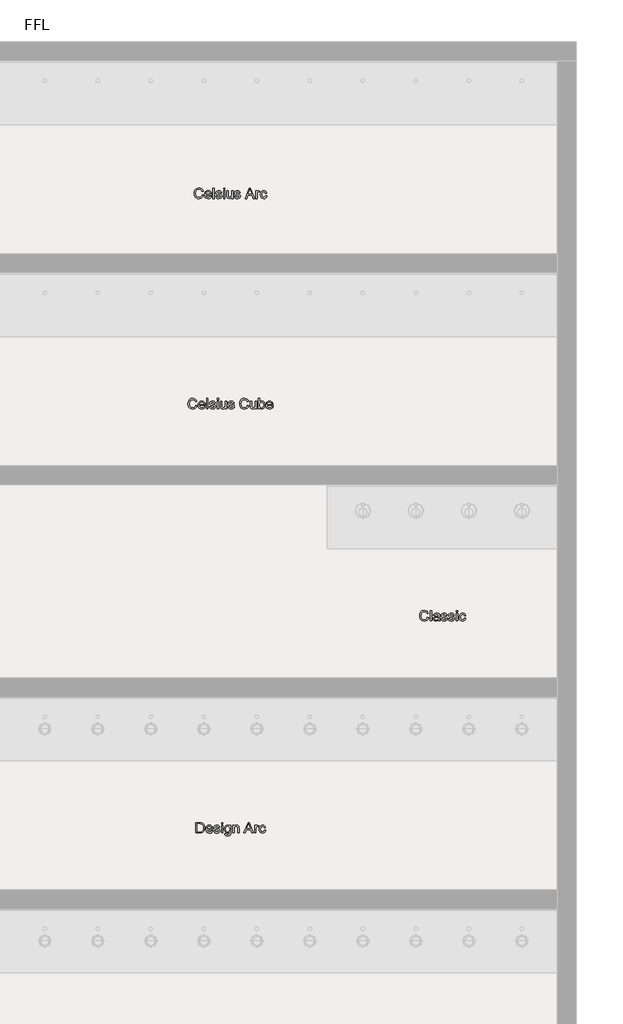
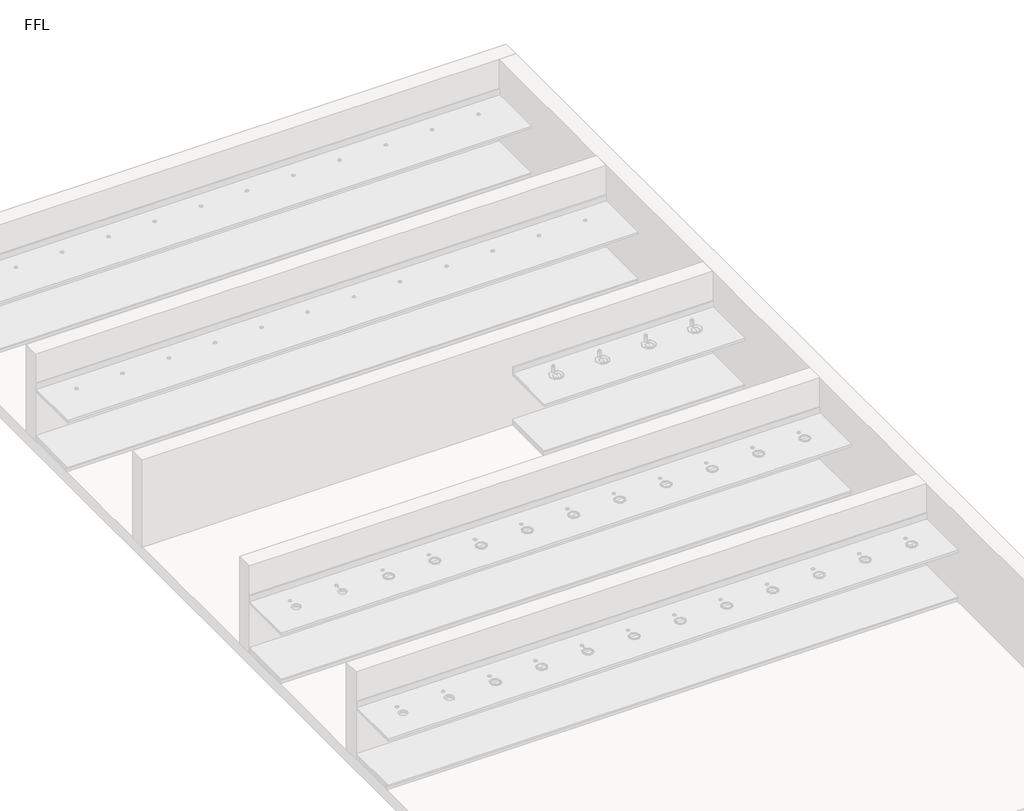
# One storey, part 6 of 6: 4 proxies.
"""IFC4 building model written with IfcOpenShell, lengths in millimetres."""

from ifc_helpers import new_model, si_unit, origin, origin_with_axes, place, context, project, spatial, polyline, outline, extrude, element, save

model = new_model("IFC4")

# Units and contexts
model_context = context("Model", 3, world=origin())
ifc_project = project(units=[si_unit("LENGTHUNIT", "METRE", prefix="MILLI")], contexts=[model_context])

# Site, building, storey
site = spatial("IfcSite", under=ifc_project)
building = spatial("IfcBuilding", under=site)
storey = spatial("IfcBuildingStorey", under=building, Name="FFL", Elevation=0.0)

# Proxies
placement = place(None, origin())
element("IfcBuildingElementProxy", 1, Name="150mm Arial", ObjectType="150mm Arial", at=placement, inside=storey, context=model_context, shape_type="SweptSolid", body=[
    extrude(outline(polyline([(-2745.1193659, 11953.6531174), (-2726.6578274, 11948.893502), (-2735.1764572, 11927.3805813), (-2748.5448467, 11911.6639347), (-2766.1049428, 11902.0500525), (-2787.1986928, 11898.845425), (-2808.6124548, 11901.2703049), (-2825.618164, 11908.5449443), (-2838.6530197, 11920.4169395), (-2848.1542217, 11936.6338866), (-2853.9550029, 11955.6993914), (-2855.8885967, 11976.1170597), (-2853.7025991, 11997.6525164), (-2847.1446063, 12016.2492712), (-2836.5571664, 12031.3168794), (-2822.2828274, 12042.2648962), (-2805.3537409, 12048.9310621), (-2786.8020582, 12051.1531174), (-2766.5601712, 12048.2775164), (-2749.8248947, 12039.6507135), (-2737.1190654, 12025.8045597), (-2728.9655197, 12007.2709058), (-2747.4270582, 12002.8718674), (-2753.8272986, 12016.3349082), (-2762.571289, 12025.5701847), (-2773.7672024, 12030.9112303), (-2787.523212, 12032.6915789), (-2803.3795822, 12030.7174202), (-2816.4054236, 12024.7949443), (-2826.2897385, 12015.5461462), (-2832.7215293, 12003.5930212), (-2837.4270582, 11976.1531174), (-2831.8561447, 11944.3502327), (-2824.7347505, 11932.4737303), (-2814.5123947, 11924.0317231), (-2802.2572866, 11918.9881534), (-2789.0376351, 11917.3069635), (-2773.6274789, 11919.596627), (-2760.7864332, 11926.4656174), (-2751.0914212, 11937.8418193), (-2745.1193659, 11953.6531174)])), origin_with_axes(), (0.0, 0.0, 1.0), 5.0),
    extrude(outline(polyline([(-2627.6434043, 11933.4608097), (-2609.5424428, 11931.1531174), (-2616.0643779, 11917.5142952), (-2626.4715293, 11907.3189827), (-2640.5295221, 11900.9638145), (-2658.0039813, 11898.845425), (-2679.6656399, 11902.5007736), (-2696.3333082, 11913.4668193), (-2706.961313, 11931.0314226), (-2710.5039813, 11954.4824443), (-2706.9252553, 11978.7222279), (-2696.1890774, 11996.8502327), (-2679.7467697, 12008.1543193), (-2659.0496543, 12011.9223481), (-2638.9970702, 12008.1633337), (-2622.9739332, 11996.8862904), (-2612.4676231, 11978.7943433), (-2608.9655197, 11954.5906174), (-2609.0736928, 11949.6146558), (-2692.0424428, 11949.6146558), (-2688.8468298, 11935.7955452), (-2681.4234524, 11925.6362904), (-2670.7098106, 11919.3892952), (-2657.6434043, 11917.3069635), (-2639.5424428, 11921.1651366), (-2627.6434043, 11933.4608097)]), holes=[polyline([(-2692.0424428, 11968.0761943), (-2627.4270582, 11968.0761943), (-2629.9240534, 11977.8298), (-2634.8188851, 11984.8069635), (-2645.5821063, 11991.2973481), (-2659.1217697, 11993.4608097), (-2671.5661808, 11991.7345476), (-2681.8561447, 11986.5557616), (-2689.0090894, 11978.4833457), (-2692.0424428, 11968.0761943)])]), origin_with_axes(), (0.0, 0.0, 1.0), 5.0),
    extrude(outline(polyline([(-2590.5039813, 11901.1531174), (-2590.5039813, 12048.845425), (-2572.0424428, 12048.845425), (-2572.0424428, 11901.1531174), (-2590.5039813, 11901.1531174)])), origin_with_axes(), (0.0, 0.0, 1.0), 5.0),
    extrude(outline(polyline([(-2551.273212, 11933.4608097), (-2532.8116736, 11935.768502), (-2529.9000149, 11927.8718674), (-2524.2660005, 11922.0665789), (-2504.6866736, 11917.3069635), (-2485.8645582, 11921.6699443), (-2479.7347505, 11931.9103289), (-2485.9006159, 11940.2035981), (-2504.9030197, 11945.4680212), (-2532.7035005, 11954.5004731), (-2544.836914, 11965.0473481), (-2548.9655197, 11979.939175), (-2545.648212, 11993.6951847), (-2536.5977313, 12004.206002), (-2524.8609524, 12009.6687424), (-2508.977539, 12011.9223481), (-2486.5135967, 12008.29855), (-2472.2347505, 11998.4908577), (-2465.8885967, 11981.9223481), (-2484.3501351, 11979.6146558), (-2491.2912409, 11989.8009539), (-2507.5352313, 11993.4608097), (-2525.2035005, 11989.9632135), (-2530.5039813, 11981.814175), (-2528.304462, 11976.4415789), (-2521.4174428, 11972.3670597), (-2505.5160005, 11968.4367712), (-2478.4186447, 11959.7468674), (-2465.8345101, 11949.9031174), (-2461.273212, 11933.8574443), (-2466.6277793, 11916.189175), (-2482.0785005, 11903.3706654), (-2504.9390774, 11898.845425), (-2523.5538611, 11901.0269154), (-2537.1385967, 11907.5713866), (-2546.2071063, 11918.4067231), (-2551.273212, 11933.4608097)])), origin_with_axes(), (0.0, 0.0, 1.0), 5.0),
    extrude(outline(polyline([(-2440.5039813, 11901.1531174), (-2440.5039813, 12009.6146558), (-2422.0424428, 12009.6146558), (-2422.0424428, 11901.1531174), (-2440.5039813, 11901.1531174)])), origin_with_axes(), (0.0, 0.0, 1.0), 5.0),
    extrude(outline(polyline([(-2440.5039813, 12030.3838866), (-2440.5039813, 12048.845425), (-2422.0424428, 12048.845425), (-2422.0424428, 12030.3838866), (-2440.5039813, 12030.3838866)])), origin_with_axes(), (0.0, 0.0, 1.0), 5.0),
    extrude(outline(polyline([(-2325.1193659, 11901.1531174), (-2325.1193659, 11919.7949443), (-2339.5785005, 11904.0828049), (-2358.4366736, 11898.845425), (-2375.7984524, 11902.5233097), (-2387.7696063, 11911.7540789), (-2393.2684043, 11925.3478289), (-2394.3501351, 11942.5112904), (-2394.3501351, 12009.6146558), (-2375.8885967, 12009.6146558), (-2375.8885967, 11951.2011943), (-2374.7708082, 11932.3790789), (-2367.4691255, 11921.3273962), (-2353.7131159, 11917.3069635), (-2338.2984524, 11921.4175404), (-2328.1121543, 11932.6134539), (-2325.1193659, 11953.1843674), (-2325.1193659, 12009.6146558), (-2306.6578274, 12009.6146558), (-2306.6578274, 11901.1531174), (-2325.1193659, 11901.1531174)])), origin_with_axes(), (0.0, 0.0, 1.0), 5.0),
    extrude(outline(polyline([(-2288.196289, 11933.4608097), (-2269.7347505, 11935.768502), (-2266.8230918, 11927.8718674), (-2261.1890774, 11922.0665789), (-2241.6097505, 11917.3069635), (-2222.7876351, 11921.6699443), (-2216.6578274, 11931.9103289), (-2222.8236928, 11940.2035981), (-2241.8260967, 11945.4680212), (-2269.6265774, 11954.5004731), (-2281.7599909, 11965.0473481), (-2285.8885967, 11979.939175), (-2282.571289, 11993.6951847), (-2273.5208082, 12004.206002), (-2261.7840293, 12009.6687424), (-2245.9006159, 12011.9223481), (-2223.4366736, 12008.29855), (-2209.1578274, 11998.4908577), (-2202.8116736, 11981.9223481), (-2221.273212, 11979.6146558), (-2228.2143178, 11989.8009539), (-2244.4583082, 11993.4608097), (-2262.1265774, 11989.9632135), (-2267.4270582, 11981.814175), (-2265.227539, 11976.4415789), (-2258.3405197, 11972.3670597), (-2242.4390774, 11968.4367712), (-2215.3417217, 11959.7468674), (-2202.757587, 11949.9031174), (-2198.196289, 11933.8574443), (-2203.5508563, 11916.189175), (-2219.0015774, 11903.3706654), (-2241.8621543, 11898.845425), (-2260.476938, 11901.0269154), (-2274.0616736, 11907.5713866), (-2283.1301832, 11918.4067231), (-2288.196289, 11933.4608097)])), origin_with_axes(), (0.0, 0.0, 1.0), 5.0),
    extrude(outline(polyline([(-2134.6265774, 11901.1531174), (-2075.6722505, 12048.845425), (-2059.9510967, 12048.845425), (-2000.9967697, 11901.1531174), (-2020.5039813, 11901.1531174), (-2037.415039, 11947.3069635), (-2098.2443659, 11947.3069635), (-2115.1193659, 11901.1531174), (-2134.6265774, 11901.1531174)]), holes=[polyline([(-2091.4655197, 11965.768502), (-2044.1578274, 11965.768502), (-2057.4631159, 12002.0785981), (-2067.8116736, 12030.3838866), (-2077.0063851, 12005.251675), (-2091.4655197, 11965.768502)])]), origin_with_axes(), (0.0, 0.0, 1.0), 5.0),
    extrude(outline(polyline([(-1983.5809043, 11901.1531174), (-1983.5809043, 12009.6146558), (-1967.4270582, 12009.6146558), (-1967.4270582, 11993.5689827), (-1955.960712, 12008.3526366), (-1944.4222505, 12011.9223481), (-1925.8885967, 12006.2252327), (-1932.054462, 11989.674752), (-1945.0352313, 11993.4608097), (-1955.4739332, 11989.8189827), (-1962.1265774, 11979.7228289), (-1965.1193659, 11958.1603289), (-1965.1193659, 11901.1531174), (-1983.5809043, 11901.1531174)])), origin_with_axes(), (0.0, 0.0, 1.0), 5.0),
    extrude(outline(polyline([(-1845.1193659, 11940.3838866), (-1826.6578274, 11938.0761943), (-1831.805063, 11921.6564226), (-1841.477539, 11909.2480693), (-1854.7647986, 11901.4460861), (-1870.7563851, 11898.845425), (-1890.3943058, 11902.4737303), (-1905.7503755, 11913.3586462), (-1915.6617337, 11931.0224082), (-1918.9655197, 11954.987252), (-1913.3224909, 11985.6543193), (-1906.2010967, 11997.1522159), (-1896.1229717, 12005.3598481), (-1884.0661808, 12010.2817231), (-1871.008789, 12011.9223481), (-1855.4093298, 12009.6687424), (-1842.9378755, 12002.907925), (-1833.9910606, 11992.0004731), (-1828.9655197, 11977.3069635), (-1847.4270582, 11974.9992712), (-1855.9907601, 11988.8273962), (-1870.8645582, 11993.4608097), (-1882.7951471, 11991.1801606), (-1892.2647986, 11984.3382135), (-1898.4441856, 11972.565377), (-1900.5039813, 11955.4920597), (-1898.4892577, 11938.1888746), (-1892.445087, 11926.3754731), (-1883.1467096, 11919.5740909), (-1871.3693659, 11917.3069635), (-1861.8095702, 11918.7222279), (-1853.9715293, 11922.9680212), (-1848.2699067, 11930.1525164), (-1845.1193659, 11940.3838866)])), origin_with_axes(), (0.0, 0.0, 1.0), 5.0),
])
element("IfcBuildingElementProxy", 2, Name="150mm Arial", ObjectType="150mm Arial", at=placement, inside=storey, context=model_context, shape_type="SweptSolid", body=[
    extrude(outline(polyline([(-2833.9655197, 8976.8685711), (-2815.5039813, 8972.1089557), (-2824.0226111, 8950.596035), (-2837.3910005, 8934.8793884), (-2854.9510967, 8925.2655062), (-2876.0448467, 8922.0608788), (-2897.4586087, 8924.4857586), (-2914.4643178, 8931.760398), (-2927.4991736, 8943.6323932), (-2937.0003755, 8959.8493403), (-2942.8011567, 8978.9148451), (-2944.7347505, 8999.3325134), (-2942.5487529, 9020.8679701), (-2935.9907601, 9039.4647249), (-2925.4033202, 9054.5323331), (-2911.1289813, 9065.4803499), (-2894.1998947, 9072.1465158), (-2875.648212, 9074.3685711), (-2855.406325, 9071.4929701), (-2838.6710486, 9062.8661672), (-2825.9652192, 9049.0200134), (-2817.8116736, 9030.4863595), (-2836.273212, 9026.0873211), (-2842.6734524, 9039.5503619), (-2851.4174428, 9048.7856384), (-2862.6133563, 9054.126684), (-2876.3693659, 9055.9070326), (-2892.2257361, 9053.932874), (-2905.2515774, 9048.010398), (-2915.1358923, 9038.7615999), (-2921.5676832, 9026.8084749), (-2926.273212, 8999.3685711), (-2920.7022986, 8967.5656865), (-2913.5809043, 8955.689184), (-2903.3585486, 8947.2471768), (-2891.1034404, 8942.2036071), (-2877.883789, 8940.5224172), (-2862.4736327, 8942.8120807), (-2849.632587, 8949.6810711), (-2839.937575, 8961.057273), (-2833.9655197, 8976.8685711)])), origin_with_axes(), (0.0, 0.0, 1.0), 5.0),
    extrude(outline(polyline([(-2716.4895582, 8956.6762634), (-2698.3885967, 8954.3685711), (-2704.9105317, 8940.729749), (-2715.3176832, 8930.5344365), (-2729.375676, 8924.1792682), (-2746.8501351, 8922.0608788), (-2768.5117938, 8925.7162273), (-2785.179462, 8936.682273), (-2795.8074668, 8954.2468764), (-2799.3501351, 8977.697898), (-2795.7714092, 9001.9376816), (-2785.0352313, 9020.0656865), (-2768.5929236, 9031.369773), (-2747.8958082, 9035.1378018), (-2727.8432241, 9031.3787874), (-2711.820087, 9020.1017441), (-2701.3137769, 9002.009797), (-2697.8116736, 8977.8060711), (-2697.9198467, 8972.8301095), (-2780.8885967, 8972.8301095), (-2777.6929837, 8959.010999), (-2770.2696063, 8948.8517441), (-2759.5559644, 8942.604749), (-2746.4895582, 8940.5224172), (-2728.3885967, 8944.3805903), (-2716.4895582, 8956.6762634)]), holes=[polyline([(-2780.8885967, 8991.291648), (-2716.273212, 8991.291648), (-2718.7702072, 9001.0452538), (-2723.665039, 9008.0224172), (-2734.4282601, 9014.5128018), (-2747.9679236, 9016.6762634), (-2760.4123346, 9014.9500014), (-2770.7022986, 9009.7712153), (-2777.8552433, 9001.6987994), (-2780.8885967, 8991.291648)])]), origin_with_axes(), (0.0, 0.0, 1.0), 5.0),
    extrude(outline(polyline([(-2679.3501351, 8924.3685711), (-2679.3501351, 9072.0608788), (-2660.8885967, 9072.0608788), (-2660.8885967, 8924.3685711), (-2679.3501351, 8924.3685711)])), origin_with_axes(), (0.0, 0.0, 1.0), 5.0),
    extrude(outline(polyline([(-2640.1193659, 8956.6762634), (-2621.6578274, 8958.9839557), (-2618.7461688, 8951.0873211), (-2613.1121543, 8945.2820326), (-2593.5328274, 8940.5224172), (-2574.710712, 8944.885398), (-2568.5809043, 8955.1257826), (-2574.7467697, 8963.4190518), (-2593.7491736, 8968.6834749), (-2621.5496543, 8977.7159268), (-2633.6830678, 8988.2628018), (-2637.8116736, 9003.1546288), (-2634.4943659, 9016.9106384), (-2625.4438851, 9027.4214557), (-2613.7071063, 9032.8841961), (-2597.8236928, 9035.1378018), (-2575.3597505, 9031.5140038), (-2561.0809043, 9021.7063115), (-2554.7347505, 9005.1378018), (-2573.196289, 9002.8301095), (-2580.1373947, 9013.0164076), (-2596.3813851, 9016.6762634), (-2614.0496543, 9013.1786672), (-2619.3501351, 9005.0296288), (-2617.1506159, 8999.6570326), (-2610.2635967, 8995.5825134), (-2594.3621543, 8991.6522249), (-2567.2647986, 8982.9623211), (-2554.680664, 8973.1185711), (-2550.1193659, 8957.072898), (-2555.4739332, 8939.4046288), (-2570.9246543, 8926.5861191), (-2593.7852313, 8922.0608788), (-2612.4000149, 8924.2423691), (-2625.9847505, 8930.7868403), (-2635.0532601, 8941.6221768), (-2640.1193659, 8956.6762634)])), origin_with_axes(), (0.0, 0.0, 1.0), 5.0),
    extrude(outline(polyline([(-2529.3501351, 8924.3685711), (-2529.3501351, 9032.8301095), (-2510.8885967, 9032.8301095), (-2510.8885967, 8924.3685711), (-2529.3501351, 8924.3685711)])), origin_with_axes(), (0.0, 0.0, 1.0), 5.0),
    extrude(outline(polyline([(-2529.3501351, 9053.5993403), (-2529.3501351, 9072.0608788), (-2510.8885967, 9072.0608788), (-2510.8885967, 9053.5993403), (-2529.3501351, 9053.5993403)])), origin_with_axes(), (0.0, 0.0, 1.0), 5.0),
    extrude(outline(polyline([(-2413.9655197, 8924.3685711), (-2413.9655197, 8943.010398), (-2428.4246543, 8927.2982586), (-2447.2828274, 8922.0608788), (-2464.6446063, 8925.7387634), (-2476.6157601, 8934.9695326), (-2482.1145582, 8948.5632826), (-2483.196289, 8965.7267441), (-2483.196289, 9032.8301095), (-2464.7347505, 9032.8301095), (-2464.7347505, 8974.416648), (-2463.616962, 8955.5945326), (-2456.3152793, 8944.5428499), (-2442.5592697, 8940.5224172), (-2427.1446063, 8944.6329941), (-2416.9583082, 8955.8289076), (-2413.9655197, 8976.3998211), (-2413.9655197, 9032.8301095), (-2395.5039813, 9032.8301095), (-2395.5039813, 8924.3685711), (-2413.9655197, 8924.3685711)])), origin_with_axes(), (0.0, 0.0, 1.0), 5.0),
    extrude(outline(polyline([(-2377.0424428, 8956.6762634), (-2358.5809043, 8958.9839557), (-2355.6692457, 8951.0873211), (-2350.0352313, 8945.2820326), (-2330.4559043, 8940.5224172), (-2311.633789, 8944.885398), (-2305.5039813, 8955.1257826), (-2311.6698467, 8963.4190518), (-2330.6722505, 8968.6834749), (-2358.4727313, 8977.7159268), (-2370.6061447, 8988.2628018), (-2374.7347505, 9003.1546288), (-2371.4174428, 9016.9106384), (-2362.366962, 9027.4214557), (-2350.6301832, 9032.8841961), (-2334.7467697, 9035.1378018), (-2312.2828274, 9031.5140038), (-2298.0039813, 9021.7063115), (-2291.6578274, 9005.1378018), (-2310.1193659, 9002.8301095), (-2317.0604717, 9013.0164076), (-2333.304462, 9016.6762634), (-2350.9727313, 9013.1786672), (-2356.273212, 9005.0296288), (-2354.0736928, 8999.6570326), (-2347.1866736, 8995.5825134), (-2331.2852313, 8991.6522249), (-2304.1878755, 8982.9623211), (-2291.6037409, 8973.1185711), (-2287.0424428, 8957.072898), (-2292.3970101, 8939.4046288), (-2307.8477313, 8926.5861191), (-2330.7083082, 8922.0608788), (-2349.3230918, 8924.2423691), (-2362.9078274, 8930.7868403), (-2371.976337, 8941.6221768), (-2377.0424428, 8956.6762634)])), origin_with_axes(), (0.0, 0.0, 1.0), 5.0),
    extrude(outline(polyline([(-2102.4270582, 8976.8685711), (-2083.9655197, 8972.1089557), (-2092.4841495, 8950.596035), (-2105.852539, 8934.8793884), (-2123.4126351, 8925.2655062), (-2144.5063851, 8922.0608788), (-2165.9201471, 8924.4857586), (-2182.9258563, 8931.760398), (-2195.960712, 8943.6323932), (-2205.461914, 8959.8493403), (-2211.2626952, 8978.9148451), (-2213.196289, 8999.3325134), (-2211.0102914, 9020.8679701), (-2204.4522986, 9039.4647249), (-2193.8648587, 9054.5323331), (-2179.5905197, 9065.4803499), (-2162.6614332, 9072.1465158), (-2144.1097505, 9074.3685711), (-2123.8678635, 9071.4929701), (-2107.132587, 9062.8661672), (-2094.4267577, 9049.0200134), (-2086.273212, 9030.4863595), (-2104.7347505, 9026.0873211), (-2111.1349909, 9039.5503619), (-2119.8789813, 9048.7856384), (-2131.0748947, 9054.126684), (-2144.8309043, 9055.9070326), (-2160.6872745, 9053.932874), (-2173.7131159, 9048.010398), (-2183.5974308, 9038.7615999), (-2190.0292217, 9026.8084749), (-2194.7347505, 8999.3685711), (-2189.163837, 8967.5656865), (-2182.0424428, 8955.689184), (-2171.820087, 8947.2471768), (-2159.5649789, 8942.2036071), (-2146.3453274, 8940.5224172), (-2130.9351712, 8942.8120807), (-2118.0941255, 8949.6810711), (-2108.3991135, 8961.057273), (-2102.4270582, 8976.8685711)])), origin_with_axes(), (0.0, 0.0, 1.0), 5.0),
    extrude(outline(polyline([(-1991.6578274, 8924.3685711), (-1991.6578274, 8943.010398), (-2006.116962, 8927.2982586), (-2024.9751351, 8922.0608788), (-2042.336914, 8925.7387634), (-2054.3080678, 8934.9695326), (-2059.8068659, 8948.5632826), (-2060.8885967, 8965.7267441), (-2060.8885967, 9032.8301095), (-2042.4270582, 9032.8301095), (-2042.4270582, 8974.416648), (-2041.3092697, 8955.5945326), (-2034.007587, 8944.5428499), (-2020.2515774, 8940.5224172), (-2004.836914, 8944.6329941), (-1994.6506159, 8955.8289076), (-1991.6578274, 8976.3998211), (-1991.6578274, 9032.8301095), (-1973.196289, 9032.8301095), (-1973.196289, 8924.3685711), (-1991.6578274, 8924.3685711)])), origin_with_axes(), (0.0, 0.0, 1.0), 5.0),
    extrude(outline(polyline([(-1929.3501351, 8924.3685711), (-1947.8116736, 8924.3685711), (-1947.8116736, 9072.0608788), (-1929.3501351, 9072.0608788), (-1929.3501351, 9017.2892441), (-1916.4234524, 9030.6756624), (-1900.3597505, 9035.1378018), (-1881.8621543, 9031.1173691), (-1867.5111928, 9019.8132826), (-1858.695087, 9002.2351576), (-1855.5039813, 8980.2219365), (-1858.8077673, 8955.5765038), (-1868.7191255, 8937.2411672), (-1883.2638971, 8925.8559509), (-1900.4679236, 8922.0608788), (-1916.883188, 8926.9557105), (-1929.3501351, 8941.6402057), (-1929.3501351, 8924.3685711)]), holes=[polyline([(-1929.3501351, 8979.3565518), (-1928.0881159, 8963.9599172), (-1924.3020582, 8953.5392441), (-1914.6295822, 8943.776624), (-1902.054462, 8940.5224172), (-1891.399414, 8942.9202538), (-1882.2948467, 8950.1137634), (-1876.0478515, 8962.057874), (-1873.9655197, 8978.7075134), (-1875.9622144, 8995.6005422), (-1881.9522986, 9007.4094365), (-1890.7729116, 9014.3595566), (-1901.2611928, 9016.6762634), (-1911.9162409, 9014.2784268), (-1921.0208082, 9007.0849172), (-1927.2678034, 8995.3571528), (-1929.3501351, 8979.3565518)])]), origin_with_axes(), (0.0, 0.0, 1.0), 5.0),
    extrude(outline(polyline([(-1758.7972505, 8956.6762634), (-1740.696289, 8954.3685711), (-1747.2182241, 8940.729749), (-1757.6253755, 8930.5344365), (-1771.6833683, 8924.1792682), (-1789.1578274, 8922.0608788), (-1810.8194861, 8925.7162273), (-1827.4871543, 8936.682273), (-1838.1151592, 8954.2468764), (-1841.6578274, 8977.697898), (-1838.0791015, 9001.9376816), (-1827.3429236, 9020.0656865), (-1810.9006159, 9031.369773), (-1790.2035005, 9035.1378018), (-1770.1509164, 9031.3787874), (-1754.1277793, 9020.1017441), (-1743.6214692, 9002.009797), (-1740.1193659, 8977.8060711), (-1740.227539, 8972.8301095), (-1823.196289, 8972.8301095), (-1820.000676, 8959.010999), (-1812.5772986, 8948.8517441), (-1801.8636567, 8942.604749), (-1788.7972505, 8940.5224172), (-1770.696289, 8944.3805903), (-1758.7972505, 8956.6762634)]), holes=[polyline([(-1823.196289, 8991.291648), (-1758.5809043, 8991.291648), (-1761.0778995, 9001.0452538), (-1765.9727313, 9008.0224172), (-1776.7359524, 9014.5128018), (-1790.2756159, 9016.6762634), (-1802.7200269, 9014.9500014), (-1813.0099909, 9009.7712153), (-1820.1629356, 9001.6987994), (-1823.196289, 8991.291648)])]), origin_with_axes(), (0.0, 0.0, 1.0), 5.0),
])
element("IfcBuildingElementProxy", 3, Name="150mm Arial", ObjectType="150mm Arial", at=placement, inside=storey, context=model_context, shape_type="SweptSolid", body=[
    extrude(outline(polyline([(442.9575572, 5976.8685711), (461.4190957, 5972.1089557), (452.9004658, 5950.596035), (439.5320764, 5934.8793884), (421.9719803, 5925.2655062), (400.8782303, 5922.0608788), (379.4644683, 5924.4857586), (362.4587591, 5931.760398), (349.4239033, 5943.6323932), (339.9227014, 5959.8493403), (334.1219202, 5978.9148451), (332.1883264, 5999.3325134), (334.374324, 6020.8679701), (340.9323168, 6039.4647249), (351.5197567, 6054.5323331), (365.7940957, 6065.4803499), (382.7231822, 6072.1465158), (401.2748649, 6074.3685711), (421.5167519, 6071.4929701), (438.2520283, 6062.8661672), (450.9578577, 6049.0200134), (459.1114033, 6030.4863595), (440.6498649, 6026.0873211), (434.2496245, 6039.5503619), (425.5056341, 6048.7856384), (414.3097207, 6054.126684), (400.553711, 6055.9070326), (384.6973408, 6053.932874), (371.6714995, 6048.010398), (361.7871846, 6038.7615999), (355.3553937, 6026.8084749), (350.6498649, 5999.3685711), (356.2207783, 5967.5656865), (363.3421726, 5955.689184), (373.5645283, 5947.2471768), (385.8196365, 5942.2036071), (399.039288, 5940.5224172), (414.4494442, 5942.8120807), (427.2904899, 5949.6810711), (436.9855019, 5961.057273), (442.9575572, 5976.8685711)])), origin_with_axes(), (0.0, 0.0, 1.0), 5.0),
    extrude(outline(polyline([(484.4960187, 5924.3685711), (484.4960187, 6072.0608788), (502.9575572, 6072.0608788), (502.9575572, 5924.3685711), (484.4960187, 5924.3685711)])), origin_with_axes(), (0.0, 0.0, 1.0), 5.0),
    extrude(outline(polyline([(599.8806341, 5938.2147249), (581.9779899, 5925.7027057), (562.2003457, 5922.0608788), (546.7721606, 5924.2513836), (535.3914514, 5930.822898), (528.3737231, 5940.8018643), (526.0344803, 5953.2147249), (529.5681341, 5967.8180903), (538.8529899, 5978.4190518), (551.7796726, 5984.4767441), (567.7532303, 5987.2531865), (599.772461, 5993.5993403), (599.8806341, 5997.7099172), (598.6096005, 6005.9490999), (594.7964995, 6011.3397249), (586.2688553, 6015.3421288), (574.3878457, 6016.6762634), (555.709961, 6013.1245807), (546.803711, 6000.5224172), (528.3421726, 6002.8301095), (536.3289514, 6020.8589557), (552.4106822, 6031.4238595), (576.7676533, 6035.1378018), (599.1414514, 6031.8565518), (611.7796726, 6023.6173691), (617.4407303, 6011.0873211), (618.3421726, 5994.9334749), (618.3421726, 5971.9647249), (619.2796726, 5939.8914076), (622.9575572, 5924.3685711), (604.4960187, 5924.3685711), (599.8806341, 5938.2147249)]), holes=[polyline([(599.8806341, 5975.1378018), (570.0969803, 5969.4767441), (554.2135668, 5966.4839557), (547.0200572, 5961.6161672), (544.4960187, 5954.5128018), (549.9948168, 5944.5248211), (566.1306341, 5940.5224172), (584.8085187, 5944.9394845), (596.851788, 5955.6305903), (599.772461, 5969.9094365), (599.8806341, 5975.1378018)])]), origin_with_axes(), (0.0, 0.0, 1.0), 5.0),
    extrude(outline(polyline([(636.803711, 5956.6762634), (655.2652495, 5958.9839557), (658.1769082, 5951.0873211), (663.8109226, 5945.2820326), (683.3902495, 5940.5224172), (702.2123649, 5944.885398), (708.3421726, 5955.1257826), (702.1763072, 5963.4190518), (683.1739033, 5968.6834749), (655.3734226, 5977.7159268), (643.2400091, 5988.2628018), (639.1114033, 6003.1546288), (642.428711, 6016.9106384), (651.4791918, 6027.4214557), (663.2159707, 6032.8841961), (679.0993841, 6035.1378018), (701.5633264, 6031.5140038), (715.8421726, 6021.7063115), (722.1883264, 6005.1378018), (703.726788, 6002.8301095), (696.7856822, 6013.0164076), (680.5416918, 6016.6762634), (662.8734226, 6013.1786672), (657.5729418, 6005.0296288), (659.772461, 5999.6570326), (666.6594803, 5995.5825134), (682.5609226, 5991.6522249), (709.6582783, 5982.9623211), (722.242413, 5973.1185711), (726.803711, 5957.072898), (721.4491437, 5939.4046288), (705.9984226, 5926.5861191), (683.1378457, 5922.0608788), (664.523062, 5924.2423691), (650.9383264, 5930.7868403), (641.8698168, 5941.6221768), (636.803711, 5956.6762634)])), origin_with_axes(), (0.0, 0.0, 1.0), 5.0),
    extrude(outline(polyline([(740.6498649, 5956.6762634), (759.1114033, 5958.9839557), (762.023062, 5951.0873211), (767.6570764, 5945.2820326), (787.2364033, 5940.5224172), (806.0585187, 5944.885398), (812.1883264, 5955.1257826), (806.022461, 5963.4190518), (787.0200572, 5968.6834749), (759.2195764, 5977.7159268), (747.086163, 5988.2628018), (742.9575572, 6003.1546288), (746.2748649, 6016.9106384), (755.3253457, 6027.4214557), (767.0621245, 6032.8841961), (782.945538, 6035.1378018), (805.4094803, 6031.5140038), (819.6883264, 6021.7063115), (826.0344803, 6005.1378018), (807.5729418, 6002.8301095), (800.631836, 6013.0164076), (784.3878457, 6016.6762634), (766.7195764, 6013.1786672), (761.4190957, 6005.0296288), (763.6186149, 5999.6570326), (770.5056341, 5995.5825134), (786.4070764, 5991.6522249), (813.5044322, 5982.9623211), (826.0885668, 5973.1185711), (830.6498649, 5957.072898), (825.2952976, 5939.4046288), (809.8445764, 5926.5861191), (786.9839995, 5922.0608788), (768.3692158, 5924.2423691), (754.7844803, 5930.7868403), (745.7159707, 5941.6221768), (740.6498649, 5956.6762634)])), origin_with_axes(), (0.0, 0.0, 1.0), 5.0),
    extrude(outline(polyline([(851.4190957, 5924.3685711), (851.4190957, 6032.8301095), (869.8806341, 6032.8301095), (869.8806341, 5924.3685711), (851.4190957, 5924.3685711)])), origin_with_axes(), (0.0, 0.0, 1.0), 5.0),
    extrude(outline(polyline([(851.4190957, 6053.5993403), (851.4190957, 6072.0608788), (869.8806341, 6072.0608788), (869.8806341, 6053.5993403), (851.4190957, 6053.5993403)])), origin_with_axes(), (0.0, 0.0, 1.0), 5.0),
    extrude(outline(polyline([(966.803711, 5963.5993403), (985.2652495, 5961.291648), (980.1180139, 5944.8718764), (970.445538, 5932.463523), (957.1582783, 5924.6615398), (941.1666918, 5922.0608788), (921.5287711, 5925.689184), (906.1727014, 5936.5740999), (896.2613433, 5954.2378619), (892.9575572, 5978.2027057), (898.600586, 6008.869773), (905.7219803, 6020.3676696), (915.8001053, 6028.5753018), (927.8568961, 6033.4971768), (940.914288, 6035.1378018), (956.5137471, 6032.8841961), (968.9852014, 6026.1233788), (977.9320163, 6015.2159268), (982.9575572, 6000.5224172), (964.4960187, 5998.2147249), (955.9323168, 6012.0428499), (941.0585187, 6016.6762634), (929.1279298, 6014.3956143), (919.6582783, 6007.5536672), (913.4788913, 5995.7808307), (911.4190957, 5978.7075134), (913.4338192, 5961.4043283), (919.4779899, 5949.5909268), (928.7763673, 5942.7895446), (940.553711, 5940.5224172), (950.1135067, 5941.9376816), (957.9515476, 5946.1834749), (963.6531702, 5953.3679701), (966.803711, 5963.5993403)])), origin_with_axes(), (0.0, 0.0, 1.0), 5.0),
])
element("IfcBuildingElementProxy", 4, Name="150mm Arial", ObjectType="150mm Arial", at=placement, inside=storey, context=model_context, shape_type="SweptSolid", body=[
    extrude(outline(polyline([(-2830.5039813, 2924.3685711), (-2830.5039813, 3072.0608788), (-2779.554462, 3072.0608788), (-2753.196289, 3069.9334749), (-2731.4895582, 3059.3685711), (-2721.2762168, 3048.1185711), (-2714.0015774, 3034.1281865), (-2709.6476111, 3017.6678499), (-2708.196289, 2999.0079941), (-2712.1265774, 2969.2063115), (-2722.2227313, 2947.697898), (-2735.7083082, 2934.3024653), (-2753.3585486, 2926.8926095), (-2777.102539, 2924.3685711), (-2830.5039813, 2924.3685711)]), holes=[polyline([(-2812.0424428, 2942.8301095), (-2779.3741736, 2942.8301095), (-2755.6121543, 2945.4983788), (-2741.9102313, 2953.0344365), (-2730.6782601, 2971.369773), (-2726.6578274, 2999.2964557), (-2728.6274789, 3019.416648), (-2734.5364332, 3034.2724172), (-2743.2669019, 3044.4767441), (-2753.7010967, 3050.6426095), (-2779.8789813, 3053.5993403), (-2812.0424428, 3053.5993403), (-2812.0424428, 2942.8301095)])]), origin_with_axes(), (0.0, 0.0, 1.0), 5.0),
    extrude(outline(polyline([(-2609.1818659, 2956.6762634), (-2591.0809043, 2954.3685711), (-2597.6028394, 2940.729749), (-2608.0099909, 2930.5344365), (-2622.0679837, 2924.1792682), (-2639.5424428, 2922.0608788), (-2661.2041015, 2925.7162273), (-2677.8717697, 2936.682273), (-2688.4997745, 2954.2468764), (-2692.0424428, 2977.697898), (-2688.4637168, 3001.9376816), (-2677.727539, 3020.0656865), (-2661.2852313, 3031.369773), (-2640.5881159, 3035.1378018), (-2620.5355317, 3031.3787874), (-2604.5123947, 3020.1017441), (-2594.0060846, 3002.009797), (-2590.5039813, 2977.8060711), (-2590.6121543, 2972.8301095), (-2673.5809043, 2972.8301095), (-2670.3852914, 2959.010999), (-2662.961914, 2948.8517441), (-2652.2482721, 2942.604749), (-2639.1818659, 2940.5224172), (-2621.0809043, 2944.3805903), (-2609.1818659, 2956.6762634)]), holes=[polyline([(-2673.5809043, 2991.291648), (-2608.9655197, 2991.291648), (-2611.4625149, 3001.0452538), (-2616.3573467, 3008.0224172), (-2627.1205678, 3014.5128018), (-2640.6602313, 3016.6762634), (-2653.1046423, 3014.9500014), (-2663.3946063, 3009.7712153), (-2670.547551, 3001.6987994), (-2673.5809043, 2991.291648)])]), origin_with_axes(), (0.0, 0.0, 1.0), 5.0),
    extrude(outline(polyline([(-2578.9655197, 2956.6762634), (-2560.5039813, 2958.9839557), (-2557.5923226, 2951.0873211), (-2551.9583082, 2945.2820326), (-2532.3789813, 2940.5224172), (-2513.5568659, 2944.885398), (-2507.4270582, 2955.1257826), (-2513.5929236, 2963.4190518), (-2532.5953274, 2968.6834749), (-2560.3958082, 2977.7159268), (-2572.5292217, 2988.2628018), (-2576.6578274, 3003.1546288), (-2573.3405197, 3016.9106384), (-2564.290039, 3027.4214557), (-2552.5532601, 3032.8841961), (-2536.6698467, 3035.1378018), (-2514.2059043, 3031.5140038), (-2499.9270582, 3021.7063115), (-2493.5809043, 3005.1378018), (-2512.0424428, 3002.8301095), (-2518.9835486, 3013.0164076), (-2535.227539, 3016.6762634), (-2552.8958082, 3013.1786672), (-2558.196289, 3005.0296288), (-2555.9967697, 2999.6570326), (-2549.1097505, 2995.5825134), (-2533.2083082, 2991.6522249), (-2506.1109524, 2982.9623211), (-2493.5268178, 2973.1185711), (-2488.9655197, 2957.072898), (-2494.320087, 2939.4046288), (-2509.7708082, 2926.5861191), (-2532.6313851, 2922.0608788), (-2551.2461688, 2924.2423691), (-2564.8309043, 2930.7868403), (-2573.899414, 2941.6221768), (-2578.9655197, 2956.6762634)])), origin_with_axes(), (0.0, 0.0, 1.0), 5.0),
    extrude(outline(polyline([(-2468.196289, 3053.5993403), (-2468.196289, 3072.0608788), (-2449.7347505, 3072.0608788), (-2449.7347505, 3053.5993403), (-2468.196289, 3053.5993403)])), origin_with_axes(), (0.0, 0.0, 1.0), 5.0),
    extrude(outline(polyline([(-2468.196289, 2924.3685711), (-2468.196289, 3032.8301095), (-2449.7347505, 3032.8301095), (-2449.7347505, 2924.3685711), (-2468.196289, 2924.3685711)])), origin_with_axes(), (0.0, 0.0, 1.0), 5.0),
    extrude(outline(polyline([(-2426.6578274, 2915.1378018), (-2408.196289, 2912.8301095), (-2402.210712, 2903.0945326), (-2384.290039, 2898.9839557), (-2365.3958082, 2903.635398), (-2356.3813851, 2916.6882826), (-2355.1193659, 2938.2147249), (-2368.118164, 2927.8301095), (-2383.9655197, 2924.3685711), (-2402.9994741, 2928.3980182), (-2417.1926832, 2940.4863595), (-2426.0223106, 2958.2087153), (-2428.9655197, 2979.1402057), (-2423.6830678, 3007.7519845), (-2417.2197265, 3019.3670687), (-2408.3946063, 3027.9983788), (-2397.5096904, 3033.3529461), (-2384.866962, 3035.1378018), (-2368.3976111, 3031.0993403), (-2355.1193659, 3018.9839557), (-2355.1193659, 3032.8301095), (-2336.6578274, 3032.8301095), (-2336.6578274, 2939.1882826), (-2337.9198467, 2917.5671889), (-2341.7059043, 2903.3289076), (-2348.2278394, 2893.8862994), (-2357.6974909, 2886.6522249), (-2369.9075269, 2882.0548691), (-2384.6506159, 2880.5224172), (-2401.8275991, 2882.6813715), (-2415.3537409, 2889.1582345), (-2424.0301231, 2899.971035), (-2426.6578274, 2915.1378018)]), holes=[polyline([(-2410.5039813, 2980.4022249), (-2408.5343298, 2963.4686312), (-2402.6253755, 2951.8265038), (-2393.7416616, 2945.0792081), (-2382.8477313, 2942.8301095), (-2372.0349308, 2945.0656865), (-2363.1061447, 2951.7724172), (-2357.1160606, 2963.2658066), (-2355.1193659, 2979.8613595), (-2357.1746543, 2995.8664677), (-2363.3405197, 3007.3914076), (-2372.4000149, 3014.3550494), (-2383.1361928, 3016.6762634), (-2393.6785606, 3014.3911071), (-2402.5172024, 3007.5356384), (-2408.5072866, 2996.1819725), (-2410.5039813, 2980.4022249)])]), origin_with_axes(), (0.0, 0.0, 1.0), 5.0),
    extrude(outline(polyline([(-2308.9655197, 2924.3685711), (-2308.9655197, 3032.8301095), (-2290.5039813, 3032.8301095), (-2290.5039813, 3017.6858788), (-2276.3873947, 3030.7748211), (-2257.1145582, 3035.1378018), (-2239.680664, 3031.6221768), (-2227.7816255, 3022.3914076), (-2222.2467697, 3008.8156865), (-2221.273212, 2990.9671288), (-2221.273212, 2924.3685711), (-2239.7347505, 2924.3685711), (-2239.7347505, 2988.479148), (-2241.8621543, 3004.8132826), (-2249.3801832, 3013.4490999), (-2262.054462, 3016.6762634), (-2272.8672625, 3014.8643643), (-2282.0845101, 3009.4286672), (-2288.3991135, 2998.9268643), (-2290.5039813, 2981.916648), (-2290.5039813, 2924.3685711), (-2308.9655197, 2924.3685711)])), origin_with_axes(), (0.0, 0.0, 1.0), 5.0),
    extrude(outline(polyline([(-2153.0881159, 2924.3685711), (-2094.133789, 3072.0608788), (-2078.4126351, 3072.0608788), (-2019.4583082, 2924.3685711), (-2038.9655197, 2924.3685711), (-2055.8765774, 2970.5224172), (-2116.7059043, 2970.5224172), (-2133.5809043, 2924.3685711), (-2153.0881159, 2924.3685711)]), holes=[polyline([(-2109.9270582, 2988.9839557), (-2062.6193659, 2988.9839557), (-2075.9246543, 3025.2940518), (-2086.273212, 3053.5993403), (-2095.4679236, 3028.4671288), (-2109.9270582, 2988.9839557)])]), origin_with_axes(), (0.0, 0.0, 1.0), 5.0),
    extrude(outline(polyline([(-2002.0424428, 2924.3685711), (-2002.0424428, 3032.8301095), (-1985.8885967, 3032.8301095), (-1985.8885967, 3016.7844365), (-1974.4222505, 3031.5680903), (-1962.883789, 3035.1378018), (-1944.3501351, 3029.4406865), (-1950.5160005, 3012.8902057), (-1963.4967697, 3016.6762634), (-1973.9354717, 3013.0344365), (-1980.5881159, 3002.9382826), (-1983.5809043, 2981.3757826), (-1983.5809043, 2924.3685711), (-2002.0424428, 2924.3685711)])), origin_with_axes(), (0.0, 0.0, 1.0), 5.0),
    extrude(outline(polyline([(-1863.5809043, 2963.5993403), (-1845.1193659, 2961.291648), (-1850.2666015, 2944.8718764), (-1859.9390774, 2932.463523), (-1873.226337, 2924.6615398), (-1889.2179236, 2922.0608788), (-1908.8558442, 2925.689184), (-1924.211914, 2936.5740999), (-1934.1232721, 2954.2378619), (-1937.4270582, 2978.2027057), (-1931.7840293, 3008.869773), (-1924.6626351, 3020.3676696), (-1914.5845101, 3028.5753018), (-1902.5277192, 3033.4971768), (-1889.4703274, 3035.1378018), (-1873.8708683, 3032.8841961), (-1861.399414, 3026.1233788), (-1852.4525991, 3015.2159268), (-1847.4270582, 3000.5224172), (-1865.8885967, 2998.2147249), (-1874.4522986, 3012.0428499), (-1889.3260967, 3016.6762634), (-1901.2566856, 3014.3956143), (-1910.726337, 3007.5536672), (-1916.9057241, 2995.7808307), (-1918.9655197, 2978.7075134), (-1916.9507962, 2961.4043283), (-1910.9066255, 2949.5909268), (-1901.6082481, 2942.7895446), (-1889.8309043, 2940.5224172), (-1880.2711087, 2941.9376816), (-1872.4330678, 2946.1834749), (-1866.7314452, 2953.3679701), (-1863.5809043, 2963.5993403)])), origin_with_axes(), (0.0, 0.0, 1.0), 5.0),
])

save(model, "model.ifc")
